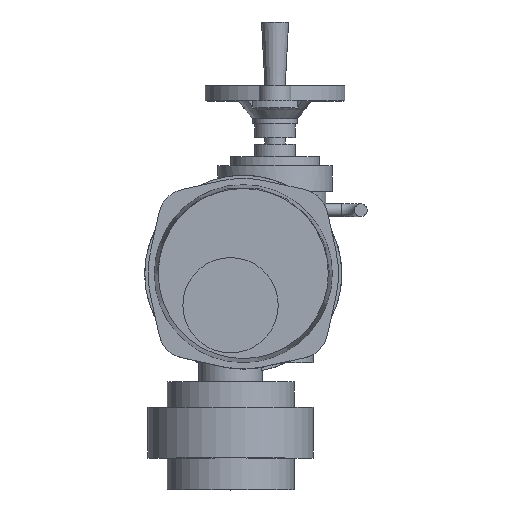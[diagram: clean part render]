
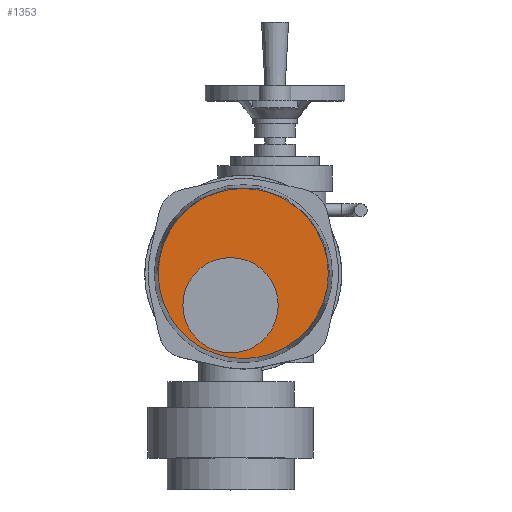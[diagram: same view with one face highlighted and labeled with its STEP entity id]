
A CAD part, top view. The second image highlights one B-rep face of the part: STEP entity #1353.
In plain terms, the highlighted planar face has unit normal (0, 0, 1).
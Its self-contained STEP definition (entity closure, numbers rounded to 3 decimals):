
#1353=ADVANCED_FACE('',(#2953,#2955),#2957,.T.);
#2953=FACE_BOUND('',#2954,.T.);
#2954=EDGE_LOOP('',(#4012));
#2955=FACE_BOUND('',#2956,.T.);
#2956=EDGE_LOOP('',(#4013));
#2957=PLANE('',#2958);
#2958=AXIS2_PLACEMENT_3D('',#2959,#2960,#2961);
#2959=CARTESIAN_POINT('',(15.,30.,364.));
#2960=DIRECTION('',(0.,0.,1.));
#2961=DIRECTION('',(-1.,0.,0.));
#4012=ORIENTED_EDGE('',*,*,#4514,.T.);
#4013=ORIENTED_EDGE('',*,*,#4554,.F.);
#4514=EDGE_CURVE('',#5159,#5159,#5160,.T.);
#4554=EDGE_CURVE('',#5219,#5219,#5220,.T.);
#5159=VERTEX_POINT('',#7946);
#5160=CIRCLE('',#7947,66.908);
#5219=VERTEX_POINT('',#8101);
#5220=CIRCLE('',#8102,37.5);
#7946=CARTESIAN_POINT('',(-51.908,30.,364.));
#7947=AXIS2_PLACEMENT_3D('',#7948,#7949,#7950);
#7948=CARTESIAN_POINT('',(15.,30.,364.));
#7949=DIRECTION('',(0.,0.,1.));
#7950=DIRECTION('',(-1.,0.,0.));
#8101=CARTESIAN_POINT('',(-32.5,5.,364.));
#8102=AXIS2_PLACEMENT_3D('',#8103,#8104,#8105);
#8103=CARTESIAN_POINT('',(5.,5.,364.));
#8104=DIRECTION('',(0.,0.,1.));
#8105=DIRECTION('',(-1.,0.,0.));
